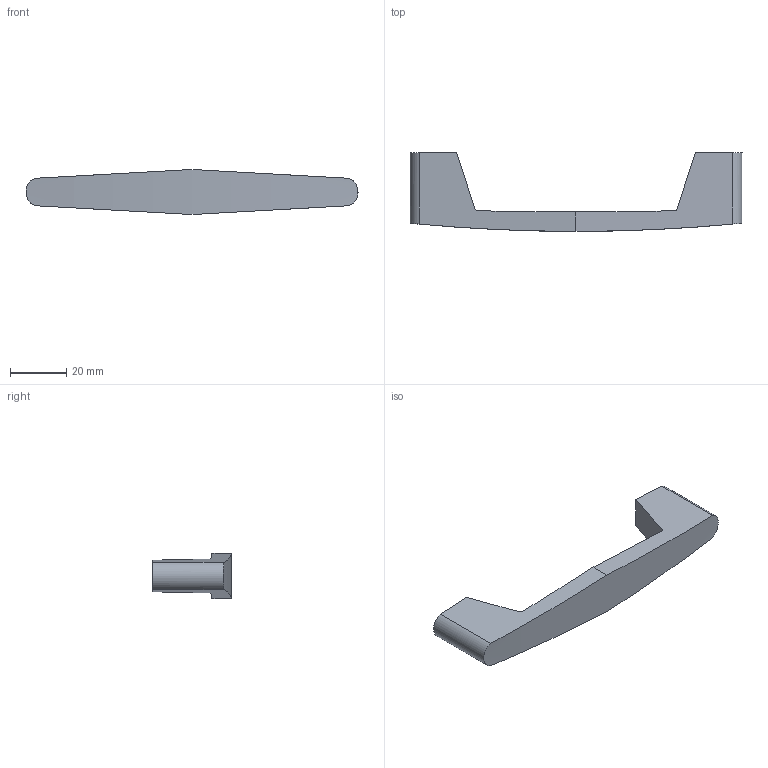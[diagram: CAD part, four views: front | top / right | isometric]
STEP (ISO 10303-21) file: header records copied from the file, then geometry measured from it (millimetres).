
FILE_DESCRIPTION( ( '' ), '1' );
FILE_NAME( 'C:/Documents and Settings/Sachin/Desktop/Sheet 10_1/stp/9070639.stp', '2013-10-22T11:31:58', ( '' ), ( '' ), ' ', ' ', ' ' );
FILE_SCHEMA( ( 'CONFIG_CONTROL_DESIGN' ) );
Length unit declared in the file: millimetre
Products named in the file (1): 1
Bounding box: 117.98 x 28 x 16 mm (x, y, z)
Volume: 17458.1 mm3; surface area: 6909.8 mm2
Topology: 1 solids, 1 shells, 20 faces, 48 edges, 32 vertices
Faces by surface type: cylinder 10, plane 10
Entity records: 685 total; most frequent: CARTESIAN_POINT 152, DIRECTION 110, ORIENTED_EDGE 96, EDGE_CURVE 48, AXIS2_PLACEMENT_3D 43, VERTEX_POINT 32, LINE 24, VECTOR 24
